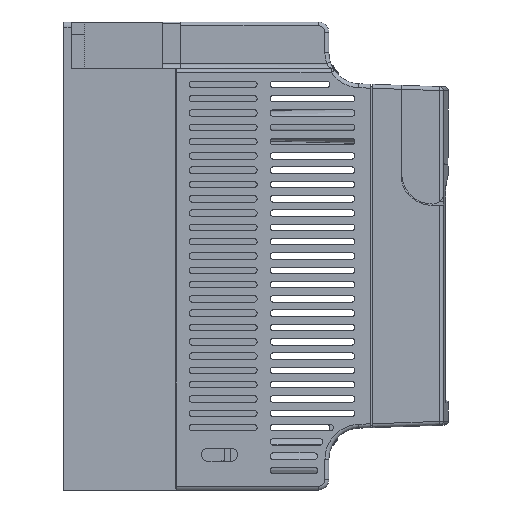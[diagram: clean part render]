
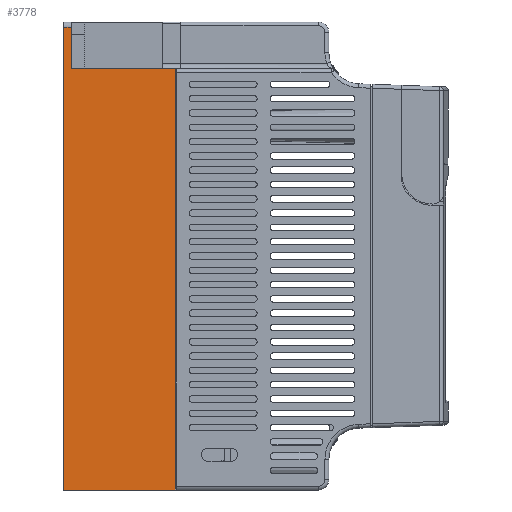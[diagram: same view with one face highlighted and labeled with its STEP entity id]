
A CAD part, left-side view. The second image highlights one B-rep face of the part: STEP entity #3778.
In plain terms, the highlighted planar face has unit normal (-1, 0, 0).
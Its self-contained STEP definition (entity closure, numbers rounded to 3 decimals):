
#405=DIRECTION('',(0.,0.,1.));
#406=VECTOR('',#405,178.);
#407=CARTESIAN_POINT('',(-36.,45.,-90.));
#408=LINE('',#407,#406);
#595=DIRECTION('',(0.,-1.,0.));
#596=VECTOR('',#595,43.);
#597=CARTESIAN_POINT('',(-36.,45.,-90.));
#598=LINE('',#597,#596);
#1515=DIRECTION('',(0.,0.,1.));
#1516=VECTOR('',#1515,162.);
#1517=CARTESIAN_POINT('',(-36.,2.,-90.));
#1518=LINE('',#1517,#1516);
#1523=DIRECTION('',(0.,-1.,0.));
#1524=VECTOR('',#1523,3.);
#1525=CARTESIAN_POINT('',(-36.,45.,88.));
#1526=LINE('',#1525,#1524);
#1527=DIRECTION('',(0.,0.,1.));
#1528=VECTOR('',#1527,16.);
#1529=CARTESIAN_POINT('',(-36.,42.,72.));
#1530=LINE('',#1529,#1528);
#1539=DIRECTION('',(0.,1.,0.));
#1540=VECTOR('',#1539,40.);
#1541=CARTESIAN_POINT('',(-36.,2.,72.));
#1542=LINE('',#1541,#1540);
#1672=CARTESIAN_POINT('',(-36.,42.,72.));
#1674=VERTEX_POINT('',#1672);
#1741=CARTESIAN_POINT('',(-36.,42.,88.));
#1743=VERTEX_POINT('',#1741);
#1744=CARTESIAN_POINT('',(-36.,45.,88.));
#1745=VERTEX_POINT('',#1744);
#1752=CARTESIAN_POINT('',(-36.,45.,-90.));
#1753=VERTEX_POINT('',#1752);
#2022=CARTESIAN_POINT('',(-36.,2.,-90.));
#2023=VERTEX_POINT('',#2022);
#2030=CARTESIAN_POINT('',(-36.,2.,72.));
#2031=VERTEX_POINT('',#2030);
#3763=CARTESIAN_POINT('',(-36.,0.,-90.));
#3764=DIRECTION('',(-1.,0.,0.));
#3765=DIRECTION('',(0.,0.,1.));
#3766=AXIS2_PLACEMENT_3D('',#3763,#3764,#3765);
#3767=PLANE('',#3766);
#3768=ORIENTED_EDGE('',*,*,#3754,.F.);
#3769=ORIENTED_EDGE('',*,*,#2460,.F.);
#3770=ORIENTED_EDGE('',*,*,#2183,.T.);
#3772=ORIENTED_EDGE('',*,*,#3771,.T.);
#3773=ORIENTED_EDGE('',*,*,#2259,.F.);
#3775=ORIENTED_EDGE('',*,*,#3774,.F.);
#3776=EDGE_LOOP('',(#3768,#3769,#3770,#3772,#3773,#3775));
#3777=FACE_OUTER_BOUND('',#3776,.F.);
#3778=ADVANCED_FACE('',(#3777),#3767,.T.);
#2183=EDGE_CURVE('',#1753,#1745,#408,.T.);
#2259=EDGE_CURVE('',#1674,#1743,#1530,.T.);
#2460=EDGE_CURVE('',#1753,#2023,#598,.T.);
#3754=EDGE_CURVE('',#2023,#2031,#1518,.T.);
#3771=EDGE_CURVE('',#1745,#1743,#1526,.T.);
#3774=EDGE_CURVE('',#2031,#1674,#1542,.T.);
